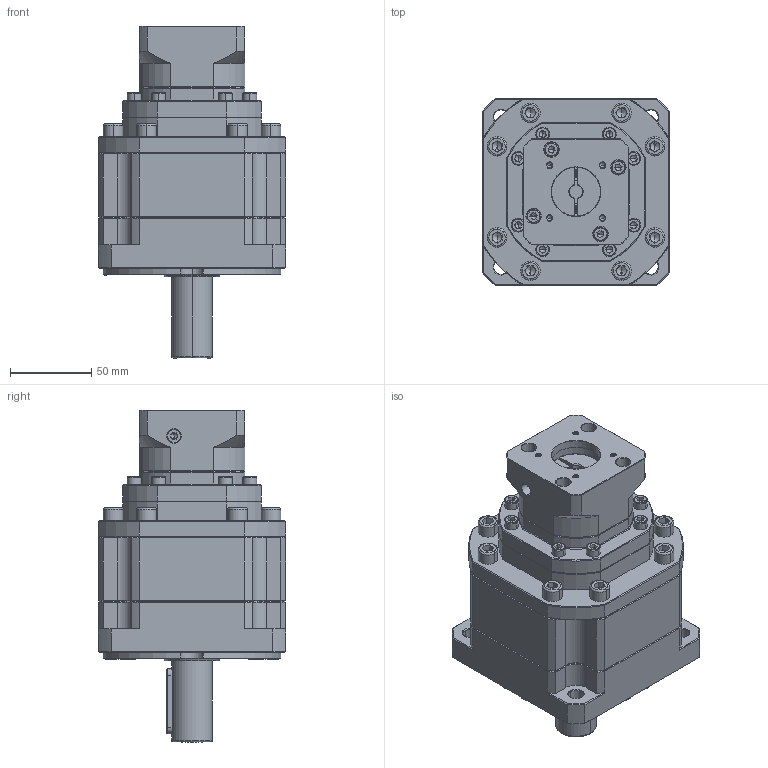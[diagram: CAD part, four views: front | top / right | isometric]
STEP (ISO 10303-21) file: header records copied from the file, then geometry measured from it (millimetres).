
FILE_DESCRIPTION (( 'STEP AP214' ), '1' );
FILE_NAME ('ZB115A-D25-L3-8-30-46-M4.step', '2023-03-03T09:54:07', ( '' ), ( 'Microsoft' ), 'SwSTEP 2.0', 'SolidWorks 2016', '' );
FILE_SCHEMA (( 'AUTOMOTIVE_DESIGN' ));
Length unit declared in the file: millimetre
Products named in the file (1): ZB115A-D25-L3-8-30-46-M4
Bounding box: 115 x 115 x 204 mm (x, y, z)
Volume: 1301754.5 mm3; surface area: 122150.4 mm2
Topology: 7 solids, 7 shells, 2271 faces, 5896 edges, 3734 vertices
Faces by surface type: plane 1126, cylinder 434, bspline 345, cone 344, torus 22
Entity records: 114179 total; most frequent: CARTESIAN_POINT 36495, ORIENTED_EDGE 11668, DIRECTION 9756, EDGE_CURVE 5834, VERTEX_POINT 3734, VECTOR 3634, LINE 3634, AXIS2_PLACEMENT_3D 3061
